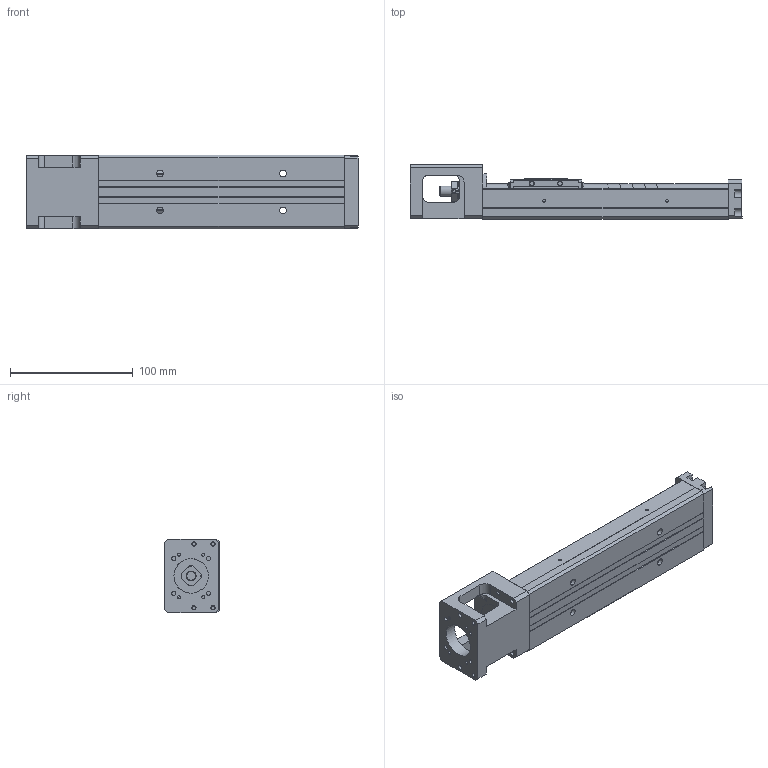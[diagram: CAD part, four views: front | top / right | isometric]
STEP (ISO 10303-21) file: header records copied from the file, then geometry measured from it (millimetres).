
FILE_DESCRIPTION(/* description */ (''),/* implementation_level */ '2;1');
FILE_NAME(/* name */ 'KP33S-200C02-D.stp',/* time_stamp */ '2020-07-01T11:52:34+08:00',/* author */ (''),/* organization */ (''),/* preprocessor_version */ 'ST-DEVELOPER v14',/* originating_system */ 'SIEMENS PLM Software NX 8.0',/* authorisation */ '');
FILE_SCHEMA (('AUTOMOTIVE_DESIGN { 1 0 10303 214 3 1 1 1 }'));
Length unit declared in the file: millimetre
Products named in the file (1): model1
Bounding box: 270 x 44.45 x 60 mm (x, y, z)
Volume: 331633.6 mm3; surface area: 94875.6 mm2
Topology: 5 solids, 10 shells, 581 faces, 1501 edges, 986 vertices
Faces by surface type: plane 344, cylinder 156, bspline 31, extrusion 21, cone 20, torus 7, sphere 2
Full cylindrical faces by diameter (mm): 1.6 x1, 1.65 x4, 2.15 x2, 2.42 x4, 2.45 x2, 2.5 x8, 3.2 x4, 3.3 x4, 3.4 x4, 3.5 x10, 3.969 x1, 4 x4, 4.001 x1, 4.135 x2, 5.5 x4, 6 x4, 7.6 x1, 8 x5, 9.5 x4, 10.72 x3, 11.8 x2, 12 x6, 12.8 x1, 13 x2, 14 x1, 16 x4, 21.5 x1, 28 x1
Entity records: 32433 total; most frequent: CARTESIAN_POINT 15001, DIRECTION 2670, ORIENTED_EDGE 2640, EDGE_CURVE 1320, VERTEX_POINT 924, AXIS2_PLACEMENT_3D 923, VECTOR 824, LINE 803
